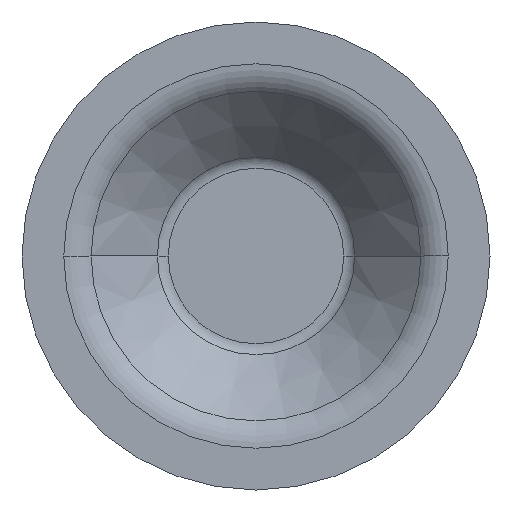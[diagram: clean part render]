
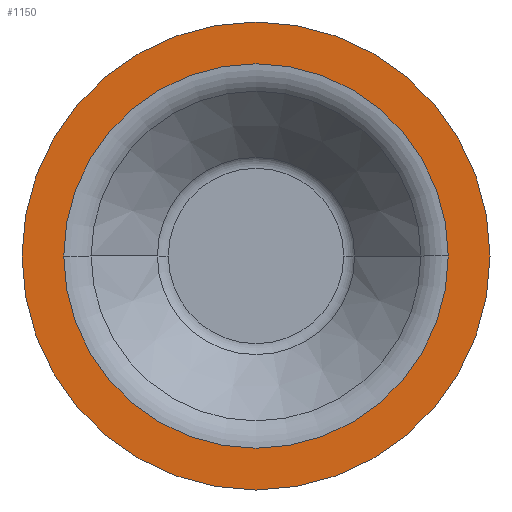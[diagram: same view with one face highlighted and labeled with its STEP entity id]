
A CAD part, front view. The second image highlights one B-rep face of the part: STEP entity #1150.
In plain terms, the highlighted planar face has unit normal (0, -1, 0).
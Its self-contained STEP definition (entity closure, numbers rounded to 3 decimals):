
#17 = PLANE ( 'NONE',  #1421 ) ;
#19 = DIRECTION ( 'NONE',  ( -1., 0., 0. ) ) ;
#64 = DIRECTION ( 'NONE',  ( -1., 0., 0. ) ) ;
#117 = VERTEX_POINT ( 'NONE', #1151 ) ;
#126 = CIRCLE ( 'NONE', #1232, 25.88 ) ;
#158 = CARTESIAN_POINT ( 'NONE',  ( 31.5, -15., 0. ) ) ;
#201 = ORIENTED_EDGE ( 'NONE', *, *, #383, .F. ) ;
#218 = DIRECTION ( 'NONE',  ( 1., 0., 0. ) ) ;
#279 = DIRECTION ( 'NONE',  ( 0., -1., 0. ) ) ;
#305 = EDGE_CURVE ( 'NONE', #404, #882, #126, .T. ) ;
#307 = CARTESIAN_POINT ( 'NONE',  ( 0., -15., 0. ) ) ;
#383 = EDGE_CURVE ( 'NONE', #882, #404, #1398, .T. ) ;
#404 = VERTEX_POINT ( 'NONE', #1565 ) ;
#415 = CIRCLE ( 'NONE', #1504, 31.5 ) ;
#447 = EDGE_CURVE ( 'NONE', #117, #976, #1476, .T. ) ;
#466 = DIRECTION ( 'NONE',  ( 1., 0., 0. ) ) ;
#480 = EDGE_CURVE ( 'NONE', #976, #117, #415, .T. ) ;
#522 = ORIENTED_EDGE ( 'NONE', *, *, #480, .T. ) ;
#548 = CARTESIAN_POINT ( 'NONE',  ( 31.5, -15., 0. ) ) ;
#636 = CARTESIAN_POINT ( 'NONE',  ( -25.88, -15., 0. ) ) ;
#678 = FACE_OUTER_BOUND ( 'NONE', #844, .T. ) ;
#773 = ORIENTED_EDGE ( 'NONE', *, *, #447, .T. ) ;
#791 = DIRECTION ( 'NONE',  ( 1., 0., 0. ) ) ;
#844 = EDGE_LOOP ( 'NONE', ( #522, #773 ) ) ;
#882 = VERTEX_POINT ( 'NONE', #636 ) ;
#936 = DIRECTION ( 'NONE',  ( 0., -1., 0. ) ) ;
#976 = VERTEX_POINT ( 'NONE', #158 ) ;
#1043 = CARTESIAN_POINT ( 'NONE',  ( 0., -15., 0. ) ) ;
#1137 = DIRECTION ( 'NONE',  ( 0., -1., 0. ) ) ;
#1150 = ADVANCED_FACE ( 'NONE', ( #1314, #678 ), #17, .T. ) ;
#1151 = CARTESIAN_POINT ( 'NONE',  ( -31.5, -15., 0. ) ) ;
#1196 = CARTESIAN_POINT ( 'NONE',  ( 0., -15., 0. ) ) ;
#1217 = CARTESIAN_POINT ( 'NONE',  ( 0., -15., 0. ) ) ;
#1232 = AXIS2_PLACEMENT_3D ( 'NONE', #1196, #936, #64 ) ;
#1310 = AXIS2_PLACEMENT_3D ( 'NONE', #307, #1325, #218 ) ;
#1314 = FACE_BOUND ( 'NONE', #1338, .T. ) ;
#1325 = DIRECTION ( 'NONE',  ( 0., -1., 0. ) ) ;
#1338 = EDGE_LOOP ( 'NONE', ( #201, #1486 ) ) ;
#1398 = CIRCLE ( 'NONE', #1447, 25.88 ) ;
#1421 = AXIS2_PLACEMENT_3D ( 'NONE', #548, #279, #791 ) ;
#1439 = DIRECTION ( 'NONE',  ( 0., -1., 0. ) ) ;
#1447 = AXIS2_PLACEMENT_3D ( 'NONE', #1043, #1137, #19 ) ;
#1476 = CIRCLE ( 'NONE', #1310, 31.5 ) ;
#1486 = ORIENTED_EDGE ( 'NONE', *, *, #305, .F. ) ;
#1504 = AXIS2_PLACEMENT_3D ( 'NONE', #1217, #1439, #466 ) ;
#1565 = CARTESIAN_POINT ( 'NONE',  ( 25.88, -15., 0. ) ) ;
